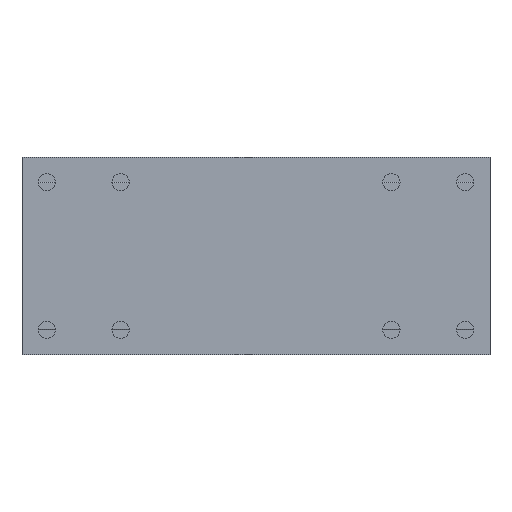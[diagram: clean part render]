
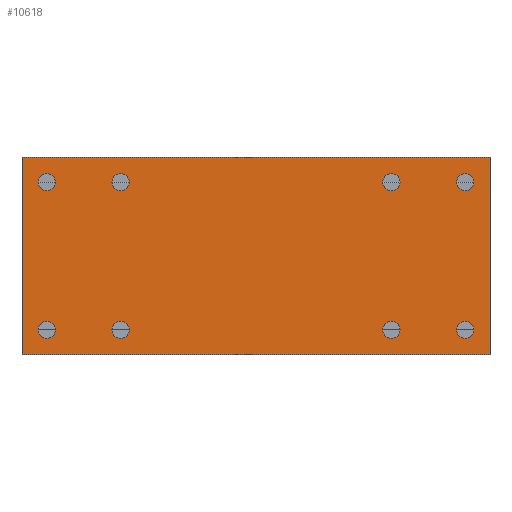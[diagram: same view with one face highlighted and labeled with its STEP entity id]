
A CAD part, front view. The second image highlights one B-rep face of the part: STEP entity #10618.
In plain terms, the highlighted planar face has unit normal (0, -1, 0).
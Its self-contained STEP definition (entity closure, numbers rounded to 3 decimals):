
#372=CIRCLE('',#11252,1.75);
#373=CIRCLE('',#11253,1.75);
#374=CIRCLE('',#11254,1.75);
#375=CIRCLE('',#11255,1.75);
#376=CIRCLE('',#11256,1.75);
#377=CIRCLE('',#11257,1.75);
#378=CIRCLE('',#11258,1.75);
#379=CIRCLE('',#11259,1.75);
#1112=ORIENTED_EDGE('',*,*,#4337,.F.);
#1113=ORIENTED_EDGE('',*,*,#4338,.F.);
#1114=ORIENTED_EDGE('',*,*,#4339,.F.);
#1115=ORIENTED_EDGE('',*,*,#4340,.F.);
#1116=ORIENTED_EDGE('',*,*,#4341,.T.);
#1117=ORIENTED_EDGE('',*,*,#4342,.F.);
#1118=ORIENTED_EDGE('',*,*,#4343,.F.);
#1119=ORIENTED_EDGE('',*,*,#4344,.F.);
#1120=ORIENTED_EDGE('',*,*,#4288,.T.);
#1121=ORIENTED_EDGE('',*,*,#4345,.F.);
#1122=ORIENTED_EDGE('',*,*,#4346,.F.);
#1123=ORIENTED_EDGE('',*,*,#4335,.T.);
#4288=EDGE_CURVE('',#5907,#5906,#7006,.T.);
#4335=EDGE_CURVE('',#5944,#5907,#7049,.T.);
#4337=EDGE_CURVE('',#5945,#5945,#372,.T.);
#4338=EDGE_CURVE('',#5946,#5946,#373,.T.);
#4339=EDGE_CURVE('',#5947,#5947,#374,.T.);
#4340=EDGE_CURVE('',#5948,#5948,#375,.T.);
#4341=EDGE_CURVE('',#5949,#5949,#376,.T.);
#4342=EDGE_CURVE('',#5950,#5950,#377,.T.);
#4343=EDGE_CURVE('',#5951,#5951,#378,.T.);
#4344=EDGE_CURVE('',#5952,#5952,#379,.T.);
#4345=EDGE_CURVE('',#5953,#5906,#7051,.T.);
#4346=EDGE_CURVE('',#5944,#5953,#7052,.T.);
#5906=VERTEX_POINT('',#16044);
#5907=VERTEX_POINT('',#16046);
#5944=VERTEX_POINT('',#16137);
#5945=VERTEX_POINT('',#16141);
#5946=VERTEX_POINT('',#16143);
#5947=VERTEX_POINT('',#16145);
#5948=VERTEX_POINT('',#16147);
#5949=VERTEX_POINT('',#16149);
#5950=VERTEX_POINT('',#16151);
#5951=VERTEX_POINT('',#16153);
#5952=VERTEX_POINT('',#16155);
#5953=VERTEX_POINT('',#16157);
#7006=LINE('',#16045,#7968);
#7049=LINE('',#16136,#8011);
#7051=LINE('',#16156,#8013);
#7052=LINE('',#16158,#8014);
#7968=VECTOR('',#12535,1000.);
#8011=VECTOR('',#12600,1000.);
#8013=VECTOR('',#12620,1000.);
#8014=VECTOR('',#12621,1000.);
#8917=EDGE_LOOP('',(#1112));
#8918=EDGE_LOOP('',(#1113));
#8919=EDGE_LOOP('',(#1114));
#8920=EDGE_LOOP('',(#1115));
#8921=EDGE_LOOP('',(#1116));
#8922=EDGE_LOOP('',(#1117));
#8923=EDGE_LOOP('',(#1118));
#8924=EDGE_LOOP('',(#1119));
#8925=EDGE_LOOP('',(#1120,#1121,#1122,#1123));
#9637=FACE_BOUND('',#8917,.T.);
#9638=FACE_BOUND('',#8918,.T.);
#9639=FACE_BOUND('',#8919,.T.);
#9640=FACE_BOUND('',#8920,.T.);
#9641=FACE_BOUND('',#8921,.T.);
#9642=FACE_BOUND('',#8922,.T.);
#9643=FACE_BOUND('',#8923,.T.);
#9644=FACE_BOUND('',#8924,.T.);
#9645=FACE_BOUND('',#8925,.T.);
#10353=PLANE('',#11251);
#10618=ADVANCED_FACE('',(#9637,#9638,#9639,#9640,#9641,#9642,#9643,#9644,
#9645),#10353,.F.);
#11251=AXIS2_PLACEMENT_3D('',#16139,#12602,#12603);
#11252=AXIS2_PLACEMENT_3D('',#16140,#12604,#12605);
#11253=AXIS2_PLACEMENT_3D('',#16142,#12606,#12607);
#11254=AXIS2_PLACEMENT_3D('',#16144,#12608,#12609);
#11255=AXIS2_PLACEMENT_3D('',#16146,#12610,#12611);
#11256=AXIS2_PLACEMENT_3D('',#16148,#12612,#12613);
#11257=AXIS2_PLACEMENT_3D('',#16150,#12614,#12615);
#11258=AXIS2_PLACEMENT_3D('',#16152,#12616,#12617);
#11259=AXIS2_PLACEMENT_3D('',#16154,#12618,#12619);
#12535=DIRECTION('',(0.,0.,-1.));
#12600=DIRECTION('',(-1.,0.,0.));
#12602=DIRECTION('',(0.,1.,0.));
#12603=DIRECTION('',(0.,0.,1.));
#12604=DIRECTION('',(0.,-1.,0.));
#12605=DIRECTION('',(0.,0.,-1.));
#12606=DIRECTION('',(0.,-1.,0.));
#12607=DIRECTION('',(0.,0.,-1.));
#12608=DIRECTION('',(0.,-1.,0.));
#12609=DIRECTION('',(0.,0.,-1.));
#12610=DIRECTION('',(0.,-1.,0.));
#12611=DIRECTION('',(0.,0.,-1.));
#12612=DIRECTION('',(0.,1.,0.));
#12613=DIRECTION('',(0.,0.,1.));
#12614=DIRECTION('',(0.,-1.,0.));
#12615=DIRECTION('',(0.,0.,-1.));
#12616=DIRECTION('',(0.,-1.,0.));
#12617=DIRECTION('',(0.,0.,-1.));
#12618=DIRECTION('',(0.,-1.,0.));
#12619=DIRECTION('',(0.,0.,-1.));
#12620=DIRECTION('',(-1.,0.,0.));
#12621=DIRECTION('',(0.,0.,-1.));
#16044=CARTESIAN_POINT('',(0.,0.,-20.));
#16045=CARTESIAN_POINT('',(0.,0.,20.));
#16046=CARTESIAN_POINT('',(0.,0.,20.));
#16136=CARTESIAN_POINT('',(95.,0.,20.));
#16137=CARTESIAN_POINT('',(95.,0.,20.));
#16139=CARTESIAN_POINT('',(95.,0.,20.));
#16140=CARTESIAN_POINT('',(75.,0.,15.));
#16141=CARTESIAN_POINT('',(75.,0.,13.25));
#16142=CARTESIAN_POINT('',(75.,0.,-15.));
#16143=CARTESIAN_POINT('',(75.,0.,-16.75));
#16144=CARTESIAN_POINT('',(20.,0.,15.));
#16145=CARTESIAN_POINT('',(20.,0.,13.25));
#16146=CARTESIAN_POINT('',(20.,0.,-15.));
#16147=CARTESIAN_POINT('',(20.,0.,-16.75));
#16148=CARTESIAN_POINT('',(90.,0.,15.));
#16149=CARTESIAN_POINT('',(90.,0.,16.75));
#16150=CARTESIAN_POINT('',(90.,0.,-15.));
#16151=CARTESIAN_POINT('',(90.,0.,-16.75));
#16152=CARTESIAN_POINT('',(5.,0.,-15.));
#16153=CARTESIAN_POINT('',(5.,0.,-16.75));
#16154=CARTESIAN_POINT('',(5.,0.,15.));
#16155=CARTESIAN_POINT('',(5.,0.,13.25));
#16156=CARTESIAN_POINT('',(95.,0.,-20.));
#16157=CARTESIAN_POINT('',(95.,0.,-20.));
#16158=CARTESIAN_POINT('',(95.,0.,20.));
